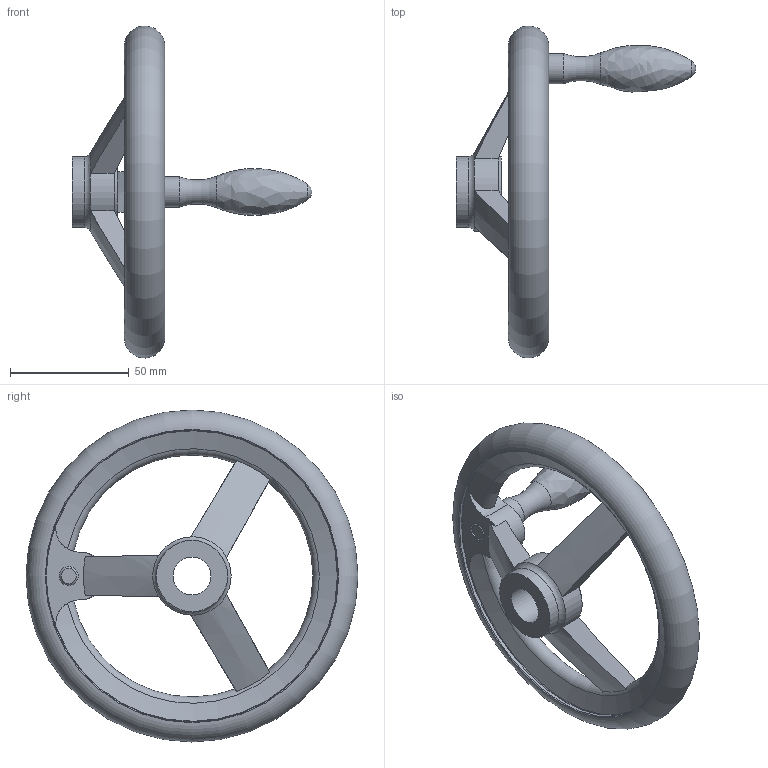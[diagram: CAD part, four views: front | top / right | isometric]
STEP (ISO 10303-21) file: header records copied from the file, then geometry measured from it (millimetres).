
FILE_DESCRIPTION( ( 'STEP AP203' ), '1' );
FILE_NAME( 'C:/Temp/Ganter_Step_05_03_2020/data/1_3/din_950/din_950_b/din_950_b_f/Handwheel DIN 950-AL-140-B16-F.stp', '2020-03-05T10:30:08', ( 'License CC BY-ND 4.0' ), ( 'CADENAS' ), ' ', 'PARTsolutions', ' ' );
FILE_SCHEMA( ( 'CONFIG_CONTROL_DESIGN' ) );
Length unit declared in the file: millimetre
Products named in the file (1): _Handwheel DIN 950-AL-140-B16-F
Bounding box: 101 x 139.99 x 139.99 mm (x, y, z)
Volume: 121043 mm3; surface area: 34262.4 mm2
Topology: 1 solids, 1 shells, 44 faces, 123 edges, 78 vertices
Faces by surface type: cylinder 13, plane 11, torus 11, cone 7, bspline 1, sphere 1
Full cylindrical faces by diameter (mm): 8 x1, 12.8 x1, 16 x1, 30 x2, 123 x2
Entity records: 1695 total; most frequent: CARTESIAN_POINT 651, DIRECTION 198, ORIENTED_EDGE 196, EDGE_CURVE 98, AXIS2_PLACEMENT_3D 93, VERTEX_POINT 74, EDGE_LOOP 68, FACE_OUTER_BOUND 60
